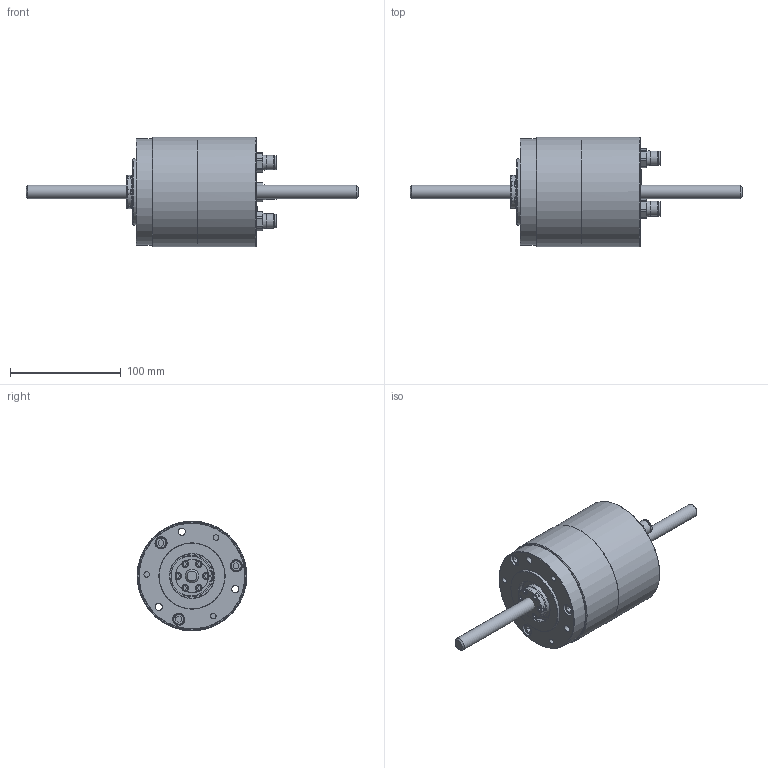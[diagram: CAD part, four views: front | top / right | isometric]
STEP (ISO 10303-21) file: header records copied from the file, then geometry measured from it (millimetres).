
FILE_DESCRIPTION(/* description */ (''),/* implementation_level */ '2;1');
FILE_NAME(/* name */ 'G:\02 CAD Dateien\02 - CAD Schrittmotoren BPS\01 - Standart Produkte\BPS 2532\Verkaufsunterlagen\STEP ab JULI 2017\500-25-381 Schrittmotor BPS-2532-SR4.stp',/* time_stamp */ '2017-12-21T08:37:12+01:00',/* author */ ('RSc'),/* organization */ (''),/* preprocessor_version */ 'ST-DEVELOPER v16.1',/* originating_system */ 'Autodesk Inventor 2016',/* authorisation */ '');
FILE_SCHEMA (('AUTOMOTIVE_DESIGN { 1 0 10303 214 3 1 1 }'));
Length unit declared in the file: millimetre
Products named in the file (3): Bauteil2; 500-25-295 Spindel 12x4; 500-25-381 Schrittmotor BPS-2532-SR4
Assembly tree (2 placements, depth 2):
  500-25-381 Schrittmotor BPS-2532-SR4
    Bauteil2
    500-25-295 Spindel 12x4
Bounding box: 300 x 99 x 99 mm (x, y, z)
Volume: 840397.1 mm3; surface area: 88141.3 mm2
Topology: 2 solids, 24 shells, 510 faces, 1189 edges, 779 vertices
Faces by surface type: plane 250, cylinder 145, cone 73, bspline 25, torus 17
Full cylindrical faces by diameter (mm): 2 x2, 2.46 x6, 3 x6, 3.1 x6, 4 x1, 4.917 x3, 5.5 x6, 6 x3, 6.5 x6, 8 x3, 10 x3, 10.106 x1, 10.5 x4, 11 x6, 12 x1, 12.5 x3, 13 x3, 15 x1, 16 x3, 19.7 x1, 20 x3, 20.5 x1, 20.8 x1, 27.9 x1, 30 x4, 37.343 x1, 37.543 x1, 40 x1, 42 x1, 48 x1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
Entity records: 14234 total; most frequent: CARTESIAN_POINT 2813, DIRECTION 2263, ORIENTED_EDGE 2030, EDGE_CURVE 1014, AXIS2_PLACEMENT_3D 897, VERTEX_POINT 739, EDGE_LOOP 733, FACE_OUTER_BOUND 510
